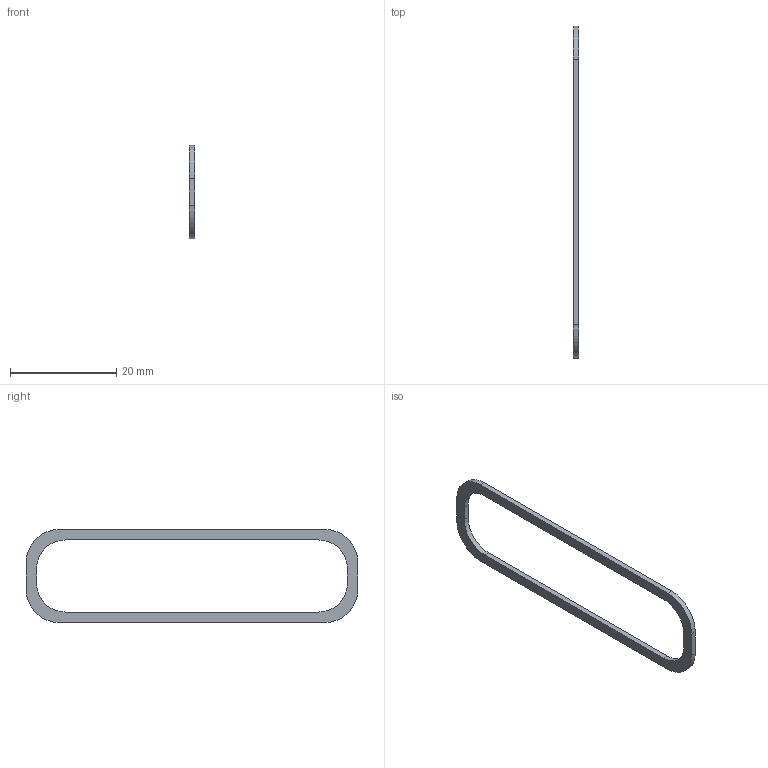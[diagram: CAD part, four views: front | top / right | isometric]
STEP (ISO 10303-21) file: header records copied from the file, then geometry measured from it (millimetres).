
FILE_DESCRIPTION(('Open CASCADE Model'),'2;1');
FILE_NAME('Open CASCADE Shape Model','2026-09-04T14:05:01',('Author'),( 'Open CASCADE'),'Open CASCADE STEP processor 7.7','Open CASCADE 7.7' ,'Unknown');
FILE_SCHEMA(('AUTOMOTIVE_DESIGN { 1 0 10303 214 1 1 1 1 }'));
Length unit declared in the file: millimetre
Products named in the file (1): Open CASCADE STEP translator 7.7 12
Bounding box: 1 x 62.6 x 17.6 mm (x, y, z)
Volume: 295.8 mm3; surface area: 876.2 mm2
Topology: 1 solids, 1 shells, 18 faces, 48 edges, 32 vertices
Faces by surface type: plane 10, cylinder 8
Entity records: 1242 total; most frequent: CARTESIAN_POINT 267, DIRECTION 186, LINE 112, VECTOR 112, ORIENTED_EDGE 96, PCURVE 96, DEFINITIONAL_REPRESENTATION 96, EDGE_CURVE 48
